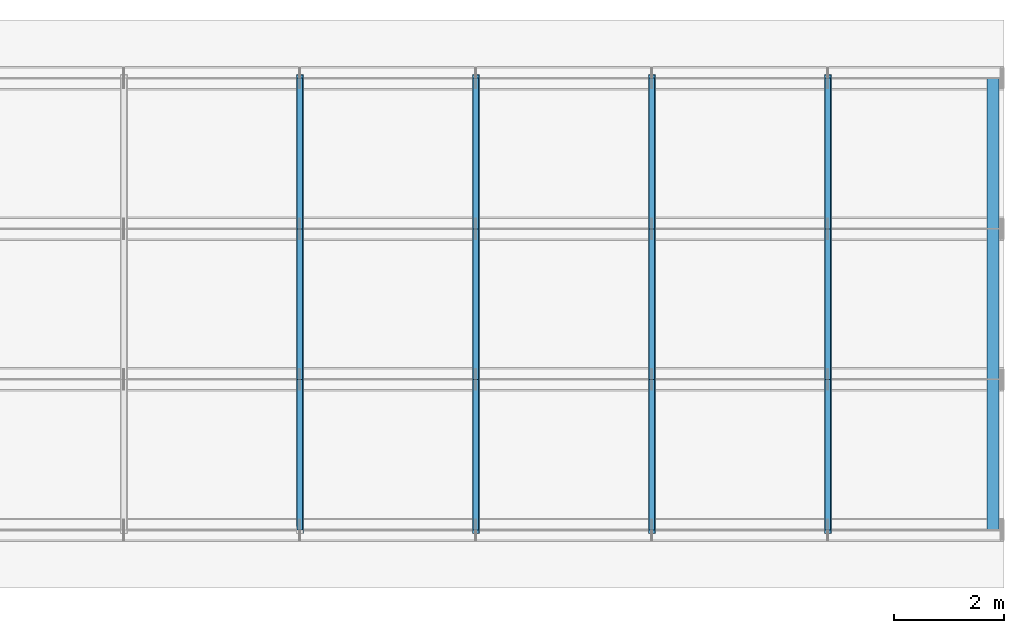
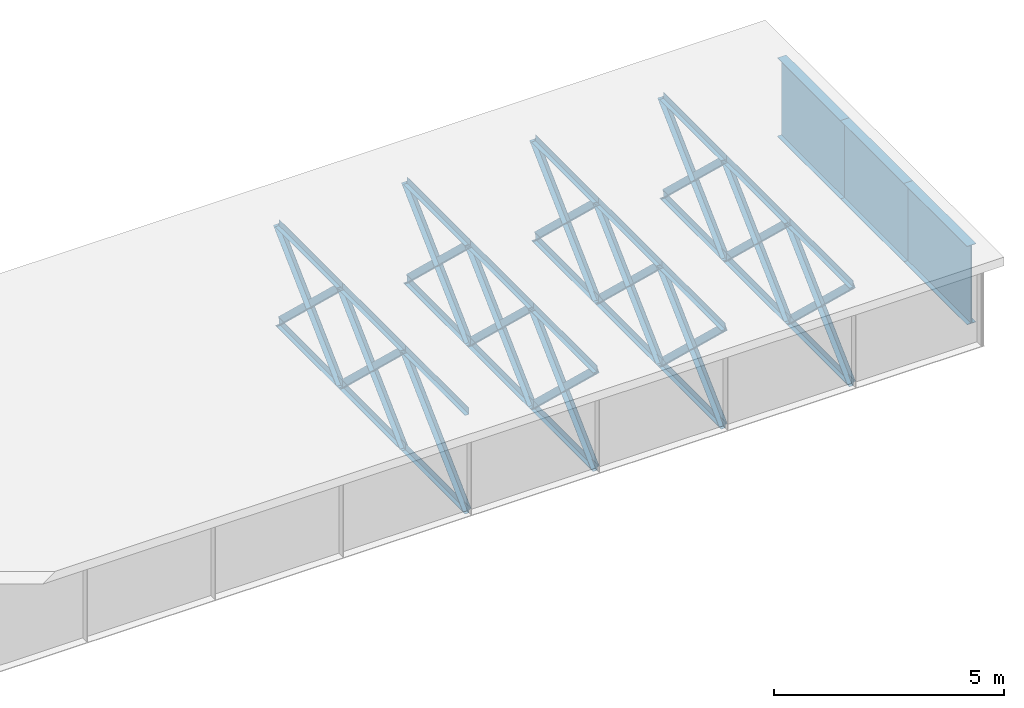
# One storey, part 2 of 13: 50 members.
"""IFC4 building model written with IfcOpenShell, lengths in metres."""

from ifc_helpers import new_model, si_unit, frame, origin, origin_with_axes, origin_2d_with_axis, place, context, subcontext, project, spatial, i_section, l_section, extrude, element, save


model = new_model("IFC4")

# Units and contexts
model_context = context("Model", 3, precision=1e-05, world=origin())
body_context = subcontext(model_context, "Body", "Model", "MODEL_VIEW")
ifc_project = project(units=[si_unit("LENGTHUNIT", "METRE"), si_unit("AREAUNIT", "SQUARE_METRE"), si_unit("VOLUMEUNIT", "CUBIC_METRE"), si_unit("PLANEANGLEUNIT", "RADIAN")], contexts=[model_context])

# Site, building, storey
site_placement = place(None, origin_with_axes())
site = spatial("IfcSite", under=ifc_project, at=site_placement, Name="Default Site")
building_placement = place(site_placement, origin_with_axes())
building = spatial("IfcBuilding", under=site, at=building_placement, Name="Bridge Structure")
storey_placement = place(building_placement, origin_with_axes())
storey = spatial("IfcBuildingStorey", under=building, at=storey_placement, Name="Superstructure")

# Members
member_placement = place(storey_placement, frame((32.14285714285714, -4.125, -1.305), z_axis=(0.0, 0.7253286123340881, 0.6884027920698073), x_axis=(-1.0, 0.0, 0.0)))
element("IfcMember", 1, at=member_placement, inside=storey, Name="Diagonal Brace", context=body_context, shape_type="SweptSolid", body=[
    extrude(l_section(Depth=0.195, Width=0.13, Thickness=0.008, at=origin_2d_with_axis()), origin_with_axes(), (0.0, 0.0, 1.0), 3.791384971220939),
])
for number, where, z_axis, x_axis, name in (
    (2, (32.14285714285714, -4.125, -1.305), (0.0, 1.0, 0.0), (-1.0, 0.0, 0.0), "Bottom Chord"),
    (3, (32.14285714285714, -4.125, 1.305), (0.0, 1.0, 0.0), (-1.0, 0.0, 0.0), "Top Chord"),
):
    element("IfcMember", number, at=place(storey_placement, frame(where, z_axis=z_axis, x_axis=x_axis)), inside=storey, Name=name, context=body_context, shape_type="SweptSolid", body=[
        extrude(l_section(Depth=0.169, Width=0.10400000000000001, Thickness=0.008, at=origin_2d_with_axis()), origin_with_axes(), (0.0, 0.0, 1.0), 2.75),
    ])
for number, where, z_axis, x_axis, name in (
    (4, (32.14285714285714, -1.375, 1.305), (0.0, 0.7253286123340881, -0.6884027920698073), (-1.0, 0.0, 0.0), "Diagonal Brace"),
    (5, (32.14285714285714, -1.375, -1.305), (0.0, 0.7253286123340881, 0.6884027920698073), (-1.0, 0.0, 0.0), "Diagonal Brace"),
):
    element("IfcMember", number, at=place(storey_placement, frame(where, z_axis=z_axis, x_axis=x_axis)), inside=storey, Name=name, context=body_context, shape_type="SweptSolid", body=[
        extrude(l_section(Depth=0.195, Width=0.13, Thickness=0.008, at=origin_2d_with_axis()), origin_with_axes(), (0.0, 0.0, 1.0), 3.791384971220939),
    ])
for number, where, z_axis, x_axis, name in (
    (6, (32.14285714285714, -1.375, -1.305), (0.0, 1.0, 0.0), (-1.0, 0.0, 0.0), "Bottom Chord"),
    (7, (32.14285714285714, -1.375, 1.305), (0.0, 1.0, 0.0), (-1.0, 0.0, 0.0), "Top Chord"),
):
    element("IfcMember", number, at=place(storey_placement, frame(where, z_axis=z_axis, x_axis=x_axis)), inside=storey, Name=name, context=body_context, shape_type="SweptSolid", body=[
        extrude(l_section(Depth=0.169, Width=0.10400000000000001, Thickness=0.008, at=origin_2d_with_axis()), origin_with_axes(), (0.0, 0.0, 1.0), 2.75),
    ])
for number, where, z_axis, x_axis, name in (
    (8, (32.14285714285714, 1.375, 1.305), (0.0, 0.7253286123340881, -0.6884027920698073), (-1.0, 0.0, 0.0), "Diagonal Brace"),
    (9, (32.14285714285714, 1.375, -1.305), (0.0, 0.7253286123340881, 0.6884027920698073), (-1.0, 0.0, 0.0), "Diagonal Brace"),
):
    element("IfcMember", number, at=place(storey_placement, frame(where, z_axis=z_axis, x_axis=x_axis)), inside=storey, Name=name, context=body_context, shape_type="SweptSolid", body=[
        extrude(l_section(Depth=0.195, Width=0.13, Thickness=0.008, at=origin_2d_with_axis()), origin_with_axes(), (0.0, 0.0, 1.0), 3.791384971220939),
    ])
for number, where, z_axis, x_axis, name in (
    (10, (32.14285714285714, 1.375, -1.305), (0.0, 1.0, 0.0), (-1.0, 0.0, 0.0), "Bottom Chord"),
    (11, (32.14285714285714, 1.375, 1.305), (0.0, 1.0, 0.0), (-1.0, 0.0, 0.0), "Top Chord"),
):
    element("IfcMember", number, at=place(storey_placement, frame(where, z_axis=z_axis, x_axis=x_axis)), inside=storey, Name=name, context=body_context, shape_type="SweptSolid", body=[
        extrude(l_section(Depth=0.169, Width=0.10400000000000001, Thickness=0.008, at=origin_2d_with_axis()), origin_with_axes(), (0.0, 0.0, 1.0), 2.75),
    ])
for number, where, z_axis, x_axis, name in (
    (12, (35.357142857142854, -4.125, 1.305), (0.0, 0.7253286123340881, -0.6884027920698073), (-1.0, 0.0, 0.0), "Diagonal Brace"),
    (13, (35.357142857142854, -4.125, -1.305), (0.0, 0.7253286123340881, 0.6884027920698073), (-1.0, 0.0, 0.0), "Diagonal Brace"),
):
    element("IfcMember", number, at=place(storey_placement, frame(where, z_axis=z_axis, x_axis=x_axis)), inside=storey, Name=name, context=body_context, shape_type="SweptSolid", body=[
        extrude(l_section(Depth=0.195, Width=0.13, Thickness=0.008, at=origin_2d_with_axis()), origin_with_axes(), (0.0, 0.0, 1.0), 3.791384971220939),
    ])
for number, where, z_axis, x_axis, name in (
    (14, (35.357142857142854, -4.125, -1.305), (0.0, 1.0, 0.0), (-1.0, 0.0, 0.0), "Bottom Chord"),
    (15, (35.357142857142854, -4.125, 1.305), (0.0, 1.0, 0.0), (-1.0, 0.0, 0.0), "Top Chord"),
):
    element("IfcMember", number, at=place(storey_placement, frame(where, z_axis=z_axis, x_axis=x_axis)), inside=storey, Name=name, context=body_context, shape_type="SweptSolid", body=[
        extrude(l_section(Depth=0.169, Width=0.10400000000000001, Thickness=0.008, at=origin_2d_with_axis()), origin_with_axes(), (0.0, 0.0, 1.0), 2.75),
    ])
for number, where, z_axis, x_axis, name in (
    (16, (35.357142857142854, -1.375, 1.305), (0.0, 0.7253286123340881, -0.6884027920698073), (-1.0, 0.0, 0.0), "Diagonal Brace"),
    (17, (35.357142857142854, -1.375, -1.305), (0.0, 0.7253286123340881, 0.6884027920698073), (-1.0, 0.0, 0.0), "Diagonal Brace"),
):
    element("IfcMember", number, at=place(storey_placement, frame(where, z_axis=z_axis, x_axis=x_axis)), inside=storey, Name=name, context=body_context, shape_type="SweptSolid", body=[
        extrude(l_section(Depth=0.195, Width=0.13, Thickness=0.008, at=origin_2d_with_axis()), origin_with_axes(), (0.0, 0.0, 1.0), 3.791384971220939),
    ])
for number, where, z_axis, x_axis, name in (
    (18, (35.357142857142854, -1.375, -1.305), (0.0, 1.0, 0.0), (-1.0, 0.0, 0.0), "Bottom Chord"),
    (19, (35.357142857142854, -1.375, 1.305), (0.0, 1.0, 0.0), (-1.0, 0.0, 0.0), "Top Chord"),
):
    element("IfcMember", number, at=place(storey_placement, frame(where, z_axis=z_axis, x_axis=x_axis)), inside=storey, Name=name, context=body_context, shape_type="SweptSolid", body=[
        extrude(l_section(Depth=0.169, Width=0.10400000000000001, Thickness=0.008, at=origin_2d_with_axis()), origin_with_axes(), (0.0, 0.0, 1.0), 2.75),
    ])
for number, where, z_axis, x_axis, name in (
    (20, (35.357142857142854, 1.375, 1.305), (0.0, 0.7253286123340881, -0.6884027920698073), (-1.0, 0.0, 0.0), "Diagonal Brace"),
    (21, (35.357142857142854, 1.375, -1.305), (0.0, 0.7253286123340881, 0.6884027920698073), (-1.0, 0.0, 0.0), "Diagonal Brace"),
):
    element("IfcMember", number, at=place(storey_placement, frame(where, z_axis=z_axis, x_axis=x_axis)), inside=storey, Name=name, context=body_context, shape_type="SweptSolid", body=[
        extrude(l_section(Depth=0.195, Width=0.13, Thickness=0.008, at=origin_2d_with_axis()), origin_with_axes(), (0.0, 0.0, 1.0), 3.791384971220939),
    ])
for number, where, z_axis, x_axis, name in (
    (22, (35.357142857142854, 1.375, -1.305), (0.0, 1.0, 0.0), (-1.0, 0.0, 0.0), "Bottom Chord"),
    (23, (35.357142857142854, 1.375, 1.305), (0.0, 1.0, 0.0), (-1.0, 0.0, 0.0), "Top Chord"),
):
    element("IfcMember", number, at=place(storey_placement, frame(where, z_axis=z_axis, x_axis=x_axis)), inside=storey, Name=name, context=body_context, shape_type="SweptSolid", body=[
        extrude(l_section(Depth=0.169, Width=0.10400000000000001, Thickness=0.008, at=origin_2d_with_axis()), origin_with_axes(), (0.0, 0.0, 1.0), 2.75),
    ])
for number, where, z_axis, x_axis, name in (
    (24, (38.57142857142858, -4.125, 1.305), (0.0, 0.7253286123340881, -0.6884027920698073), (-1.0, 0.0, 0.0), "Diagonal Brace"),
    (25, (38.57142857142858, -4.125, -1.305), (0.0, 0.7253286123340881, 0.6884027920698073), (-1.0, 0.0, 0.0), "Diagonal Brace"),
):
    element("IfcMember", number, at=place(storey_placement, frame(where, z_axis=z_axis, x_axis=x_axis)), inside=storey, Name=name, context=body_context, shape_type="SweptSolid", body=[
        extrude(l_section(Depth=0.195, Width=0.13, Thickness=0.008, at=origin_2d_with_axis()), origin_with_axes(), (0.0, 0.0, 1.0), 3.791384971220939),
    ])
for number, where, z_axis, x_axis, name in (
    (26, (38.57142857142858, -4.125, -1.305), (0.0, 1.0, 0.0), (-1.0, 0.0, 0.0), "Bottom Chord"),
    (27, (38.57142857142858, -4.125, 1.305), (0.0, 1.0, 0.0), (-1.0, 0.0, 0.0), "Top Chord"),
):
    element("IfcMember", number, at=place(storey_placement, frame(where, z_axis=z_axis, x_axis=x_axis)), inside=storey, Name=name, context=body_context, shape_type="SweptSolid", body=[
        extrude(l_section(Depth=0.169, Width=0.10400000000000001, Thickness=0.008, at=origin_2d_with_axis()), origin_with_axes(), (0.0, 0.0, 1.0), 2.75),
    ])
for number, where, z_axis, x_axis, name in (
    (28, (38.57142857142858, -1.375, 1.305), (0.0, 0.7253286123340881, -0.6884027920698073), (-1.0, 0.0, 0.0), "Diagonal Brace"),
    (29, (38.57142857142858, -1.375, -1.305), (0.0, 0.7253286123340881, 0.6884027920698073), (-1.0, 0.0, 0.0), "Diagonal Brace"),
):
    element("IfcMember", number, at=place(storey_placement, frame(where, z_axis=z_axis, x_axis=x_axis)), inside=storey, Name=name, context=body_context, shape_type="SweptSolid", body=[
        extrude(l_section(Depth=0.195, Width=0.13, Thickness=0.008, at=origin_2d_with_axis()), origin_with_axes(), (0.0, 0.0, 1.0), 3.791384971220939),
    ])
for number, where, z_axis, x_axis, name in (
    (30, (38.57142857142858, -1.375, -1.305), (0.0, 1.0, 0.0), (-1.0, 0.0, 0.0), "Bottom Chord"),
    (31, (38.57142857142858, -1.375, 1.305), (0.0, 1.0, 0.0), (-1.0, 0.0, 0.0), "Top Chord"),
):
    element("IfcMember", number, at=place(storey_placement, frame(where, z_axis=z_axis, x_axis=x_axis)), inside=storey, Name=name, context=body_context, shape_type="SweptSolid", body=[
        extrude(l_section(Depth=0.169, Width=0.10400000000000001, Thickness=0.008, at=origin_2d_with_axis()), origin_with_axes(), (0.0, 0.0, 1.0), 2.75),
    ])
for number, where, z_axis, x_axis, name in (
    (32, (38.57142857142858, 1.375, 1.305), (0.0, 0.7253286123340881, -0.6884027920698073), (-1.0, 0.0, 0.0), "Diagonal Brace"),
    (33, (38.57142857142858, 1.375, -1.305), (0.0, 0.7253286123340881, 0.6884027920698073), (-1.0, 0.0, 0.0), "Diagonal Brace"),
):
    element("IfcMember", number, at=place(storey_placement, frame(where, z_axis=z_axis, x_axis=x_axis)), inside=storey, Name=name, context=body_context, shape_type="SweptSolid", body=[
        extrude(l_section(Depth=0.195, Width=0.13, Thickness=0.008, at=origin_2d_with_axis()), origin_with_axes(), (0.0, 0.0, 1.0), 3.791384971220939),
    ])
for number, where, z_axis, x_axis, name in (
    (34, (38.57142857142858, 1.375, -1.305), (0.0, 1.0, 0.0), (-1.0, 0.0, 0.0), "Bottom Chord"),
    (35, (38.57142857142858, 1.375, 1.305), (0.0, 1.0, 0.0), (-1.0, 0.0, 0.0), "Top Chord"),
):
    element("IfcMember", number, at=place(storey_placement, frame(where, z_axis=z_axis, x_axis=x_axis)), inside=storey, Name=name, context=body_context, shape_type="SweptSolid", body=[
        extrude(l_section(Depth=0.169, Width=0.10400000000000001, Thickness=0.008, at=origin_2d_with_axis()), origin_with_axes(), (0.0, 0.0, 1.0), 2.75),
    ])
for number, where, z_axis, x_axis, name in (
    (36, (41.785714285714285, -4.125, 1.305), (0.0, 0.7253286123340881, -0.6884027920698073), (-1.0, 0.0, 0.0), "Diagonal Brace"),
    (37, (41.785714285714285, -4.125, -1.305), (0.0, 0.7253286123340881, 0.6884027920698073), (-1.0, 0.0, 0.0), "Diagonal Brace"),
):
    element("IfcMember", number, at=place(storey_placement, frame(where, z_axis=z_axis, x_axis=x_axis)), inside=storey, Name=name, context=body_context, shape_type="SweptSolid", body=[
        extrude(l_section(Depth=0.195, Width=0.13, Thickness=0.008, at=origin_2d_with_axis()), origin_with_axes(), (0.0, 0.0, 1.0), 3.791384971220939),
    ])
for number, where, z_axis, x_axis, name in (
    (38, (41.785714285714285, -4.125, -1.305), (0.0, 1.0, 0.0), (-1.0, 0.0, 0.0), "Bottom Chord"),
    (39, (41.785714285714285, -4.125, 1.305), (0.0, 1.0, 0.0), (-1.0, 0.0, 0.0), "Top Chord"),
):
    element("IfcMember", number, at=place(storey_placement, frame(where, z_axis=z_axis, x_axis=x_axis)), inside=storey, Name=name, context=body_context, shape_type="SweptSolid", body=[
        extrude(l_section(Depth=0.169, Width=0.10400000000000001, Thickness=0.008, at=origin_2d_with_axis()), origin_with_axes(), (0.0, 0.0, 1.0), 2.75),
    ])
for number, where, z_axis, x_axis, name in (
    (40, (41.785714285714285, -1.375, 1.305), (0.0, 0.7253286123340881, -0.6884027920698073), (-1.0, 0.0, 0.0), "Diagonal Brace"),
    (41, (41.785714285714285, -1.375, -1.305), (0.0, 0.7253286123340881, 0.6884027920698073), (-1.0, 0.0, 0.0), "Diagonal Brace"),
):
    element("IfcMember", number, at=place(storey_placement, frame(where, z_axis=z_axis, x_axis=x_axis)), inside=storey, Name=name, context=body_context, shape_type="SweptSolid", body=[
        extrude(l_section(Depth=0.195, Width=0.13, Thickness=0.008, at=origin_2d_with_axis()), origin_with_axes(), (0.0, 0.0, 1.0), 3.791384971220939),
    ])
for number, where, z_axis, x_axis, name in (
    (42, (41.785714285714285, -1.375, -1.305), (0.0, 1.0, 0.0), (-1.0, 0.0, 0.0), "Bottom Chord"),
    (43, (41.785714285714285, -1.375, 1.305), (0.0, 1.0, 0.0), (-1.0, 0.0, 0.0), "Top Chord"),
):
    element("IfcMember", number, at=place(storey_placement, frame(where, z_axis=z_axis, x_axis=x_axis)), inside=storey, Name=name, context=body_context, shape_type="SweptSolid", body=[
        extrude(l_section(Depth=0.169, Width=0.10400000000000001, Thickness=0.008, at=origin_2d_with_axis()), origin_with_axes(), (0.0, 0.0, 1.0), 2.75),
    ])
for number, where, z_axis, x_axis, name in (
    (44, (41.785714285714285, 1.375, 1.305), (0.0, 0.7253286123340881, -0.6884027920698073), (-1.0, 0.0, 0.0), "Diagonal Brace"),
    (45, (41.785714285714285, 1.375, -1.305), (0.0, 0.7253286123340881, 0.6884027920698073), (-1.0, 0.0, 0.0), "Diagonal Brace"),
):
    element("IfcMember", number, at=place(storey_placement, frame(where, z_axis=z_axis, x_axis=x_axis)), inside=storey, Name=name, context=body_context, shape_type="SweptSolid", body=[
        extrude(l_section(Depth=0.195, Width=0.13, Thickness=0.008, at=origin_2d_with_axis()), origin_with_axes(), (0.0, 0.0, 1.0), 3.791384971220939),
    ])
for number, where, z_axis, x_axis, name in (
    (46, (41.785714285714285, 1.375, -1.305), (0.0, 1.0, 0.0), (-1.0, 0.0, 0.0), "Bottom Chord"),
    (47, (41.785714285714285, 1.375, 1.305), (0.0, 1.0, 0.0), (-1.0, 0.0, 0.0), "Top Chord"),
):
    element("IfcMember", number, at=place(storey_placement, frame(where, z_axis=z_axis, x_axis=x_axis)), inside=storey, Name=name, context=body_context, shape_type="SweptSolid", body=[
        extrude(l_section(Depth=0.169, Width=0.10400000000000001, Thickness=0.008, at=origin_2d_with_axis()), origin_with_axes(), (0.0, 0.0, 1.0), 2.75),
    ])
for number, where, z_axis, x_axis, name in (
    (48, (44.800000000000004, -4.125, 0.261), (0.0, 1.0, 0.0), (-1.0, 0.0, 0.0), "End Diaphragm"),
    (49, (44.800000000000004, -1.375, 0.261), (0.0, 1.0, 0.0), (-1.0, 0.0, 0.0), "End Diaphragm"),
    (50, (44.800000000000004, 1.375, 0.261), (0.0, 1.0, 0.0), (-1.0, 0.0, 0.0), "End Diaphragm"),
):
    element("IfcMember", number, at=place(storey_placement, frame(where, z_axis=z_axis, x_axis=x_axis)), inside=storey, Name=name, context=body_context, shape_type="SweptSolid", body=[
        extrude(i_section(OverallWidth=0.225, OverallDepth=2.088, WebThickness=0.022, FlangeThickness=0.012, at=origin_2d_with_axis()), origin_with_axes(), (0.0, 0.0, 1.0), 2.75),
    ])

save(model, "model.ifc")
